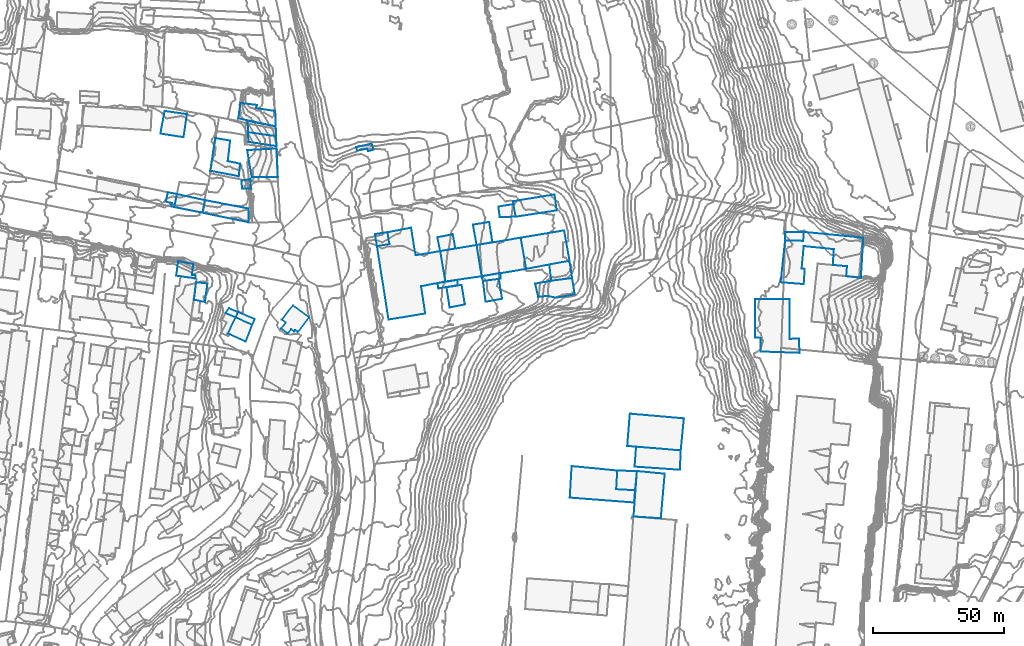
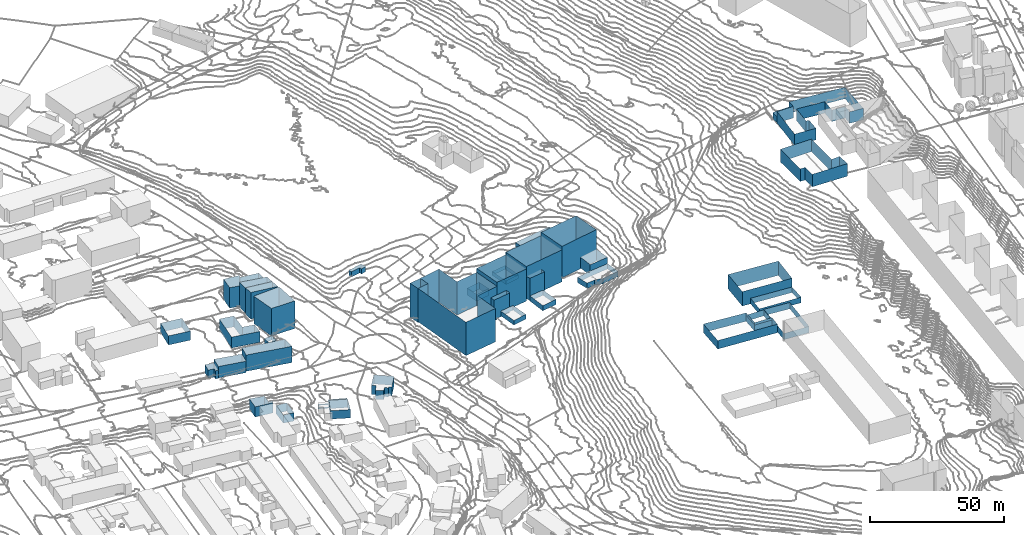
# Not in any storey, part 64 of 419: 40 walls.
"""IFC2X3 model written with IfcOpenShell, lengths in metres."""

from ifc_helpers import new_model, si_unit, frame, origin_with_axes, place, context, subcontext, project, faceted_brep, element, save


model = new_model("IFC2X3")

# Units and contexts
model_context = context("Model", 3, precision=1e-05, world=origin_with_axes())
body_context = subcontext(model_context, "Body", "Model", "MODEL_VIEW")
ifc_project = project(units=[si_unit("AREAUNIT", "SQUARE_METRE"), si_unit("LENGTHUNIT", "METRE")], contexts=[model_context])

# Walls
wall_1_placement = place(None, frame((811.9920204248, 823.2976909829, 85.8652003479), z_axis=(0.0, 0.0, 1.0), x_axis=(1.0, 0.0, 0.0)))
element("IfcWall", 1, at=wall_1_placement, Name="Mur 0", context=body_context, shape_type="Brep", body=[
    faceted_brep([(8.7999999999, -0.7000000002, 5.2347996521), (0.0, 0.0, 5.2347996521), (8.7999999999, -0.7000000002, 0.0), (0.0, 0.0, 0.0), (9.2, 5.0999999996, 5.2347996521), (9.2, 5.0999999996, 0.0), (8.0, 5.2999999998, 5.2347996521), (8.0, 5.2999999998, 0.0), (8.7999999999, 13.7999999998, 5.2347996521), (8.7999999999, 13.7999999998, 0.0), (20.2999999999, 12.5999999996, 5.2347996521), (20.2999999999, 12.5999999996, 0.0), (19.9, 6.5999999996, 5.2347996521), (19.9, 6.5999999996, 0.0), (25.2999999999, 6.0999999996, 5.2347996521), (25.2999999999, 6.0999999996, 0.0), (25.0, 2.2999999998, 5.2347996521), (25.0, 2.2999999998, 0.0), (30.6, 1.6999999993, 5.2347996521), (30.6, 1.6999999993, 0.0), (31.5, 17.0, 5.2347996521), (31.5, 17.0, 0.0), (8.7999999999, 19.1999999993, 5.2347996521), (8.7999999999, 19.1999999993, 0.0), (8.6, 15.7999999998, 5.2347996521), (8.6, 15.7999999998, 0.0), (1.7, 15.8999999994, 5.2347996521), (1.7, 15.8999999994, 0.0)], [[[0, 1, 2]], [[2, 1, 3]], [[4, 0, 5]], [[5, 0, 2]], [[6, 4, 7]], [[7, 4, 5]], [[8, 6, 9]], [[9, 6, 7]], [[10, 8, 11]], [[11, 8, 9]], [[12, 10, 13]], [[13, 10, 11]], [[14, 12, 15]], [[15, 12, 13]], [[16, 14, 17]], [[17, 14, 15]], [[18, 16, 19]], [[19, 16, 17]], [[20, 18, 21]], [[21, 18, 19]], [[22, 20, 23]], [[23, 20, 21]], [[24, 22, 25]], [[25, 22, 23]], [[1, 26, 3]], [[3, 26, 27]], [[26, 24, 27]], [[27, 24, 25]]]),
])
wall_2_placement = place(None, frame((606.4920204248, 862.0976909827, 44.4979988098), z_axis=(0.0, 0.0, 1.0), x_axis=(1.0, 0.0, 0.0)))
element("IfcWall", 2, at=wall_2_placement, Name="Mur 0", context=body_context, shape_type="Brep", body=[
    faceted_brep([(0.0, 0.0, 2.0020011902), (3.2999999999, 0.5, 2.0020011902), (0.0, 0.0, 0.0), (3.2999999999, 0.5, 0.0), (0.1, -3.1000000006, 2.0020011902), (0.1, -3.1000000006, 0.0), (3.5, -3.0, 2.0020011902), (3.5, -3.0, 0.0)], [[[0, 1, 2]], [[2, 1, 3]], [[4, 0, 5]], [[5, 0, 2]], [[1, 6, 3]], [[3, 6, 7]], [[6, 4, 7]], [[7, 4, 5]]]),
])
wall_3_placement = place(None, frame((605.1920204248, 885.7976909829, 46.5244003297), z_axis=(0.0, 0.0, 1.0), x_axis=(1.0, 0.0, 0.0)))
element("IfcWall", 3, at=wall_3_placement, Name="Mur 0", context=body_context, shape_type="Brep", body=[
    faceted_brep([(6.7000000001, 3.8999999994, 9.2755996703), (14.1, 2.7999999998, 9.2755996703), (6.7000000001, 3.8999999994, 0.0), (14.1, 2.7999999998, 0.0), (7.1, 5.0999999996, 9.2755996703), (7.1, 5.0999999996, 0.0), (0.8, 5.8999999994, 9.2755996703), (0.8, 5.8999999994, 0.0), (0.0, 0.0, 9.2755996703), (0.0, 0.0, 0.0), (14.3, -3.1000000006, 9.2755996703), (14.3, -3.1000000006, 0.0)], [[[0, 1, 2]], [[2, 1, 3]], [[4, 0, 5]], [[5, 0, 2]], [[6, 4, 7]], [[7, 4, 5]], [[8, 6, 9]], [[9, 6, 7]], [[1, 10, 3]], [[3, 10, 11]], [[10, 8, 11]], [[11, 8, 9]]]),
])
wall_4_placement = place(None, frame((753.4920204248, 760.8976909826, 71.2763980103), z_axis=(0.0, 0.0, 1.0), x_axis=(1.0, 0.0, 0.0)))
element("IfcWall", 4, at=wall_4_placement, Name="Mur 0", context=body_context, shape_type="Brep", body=[
    faceted_brep([(20.4, -1.7000000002, 6.5236019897), (3.4, -0.2999999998, 6.5236019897), (20.4, -1.7000000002, 0.0), (3.4, -0.2999999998, 0.0), (21.6, 10.5, 6.5236019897), (21.6, 10.5, 0.0), (1.0, 12.2999999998, 6.5236019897), (1.0, 12.2999999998, 0.0), (0.0, 0.0, 6.5236019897), (0.0, 0.0, 0.0)], [[[0, 1, 2]], [[2, 1, 3]], [[4, 0, 5]], [[5, 0, 2]], [[6, 4, 7]], [[7, 4, 5]], [[1, 8, 3]], [[3, 8, 9]], [[8, 6, 9]], [[9, 6, 7]]]),
])
wall_5_placement = place(None, frame((594.4920204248, 865.7976909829, 44.244799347), z_axis=(0.0, 0.0, 1.0), x_axis=(1.0, 0.0, 0.0)))
element("IfcWall", 5, at=wall_5_placement, Name="Mur 0", context=body_context, shape_type="Brep", body=[
    faceted_brep([(0.0, 0.0, 4.955200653), (1.9, 12.5, 4.955200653), (0.0, 0.0, 0.0), (1.9, 12.5, 0.0), (10.9, -2.1000000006, 4.955200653), (10.9, -2.1000000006, 0.0), (11.4, 2.6999999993, 4.955200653), (11.4, 2.6999999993, 0.0), (6.7, 3.6999999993, 4.955200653), (6.7, 3.6999999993, 0.0), (7.6, 11.5, 4.955200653), (7.6, 11.5, 0.0)], [[[0, 1, 2]], [[2, 1, 3]], [[4, 0, 5]], [[5, 0, 2]], [[6, 4, 7]], [[7, 4, 5]], [[8, 6, 9]], [[9, 6, 7]], [[1, 10, 3]], [[3, 10, 11]], [[10, 8, 11]], [[11, 8, 9]]]),
])
wall_6_placement = place(None, frame((588.2920204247, 816.5976909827, 42.0689992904), z_axis=(0.0, 0.0, 1.0), x_axis=(1.0, 0.0, 0.0)))
element("IfcWall", 6, at=wall_6_placement, Name="Mur 0", context=body_context, shape_type="Brep", body=[
    faceted_brep([(0.0, 0.0, 3.7310007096), (0.8, 6.7000000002, 3.7310007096), (0.0, 0.0, 0.0), (0.8, 6.7000000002, 0.0), (4.2000000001, -0.7999999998, 3.7310007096), (4.2000000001, -0.7999999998, 0.0), (5.1000000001, 6.2000000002, 3.7310007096), (5.1000000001, 6.2000000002, 0.0)], [[[0, 1, 2]], [[2, 1, 3]], [[4, 0, 5]], [[5, 0, 2]], [[1, 6, 3]], [[3, 6, 7]], [[6, 4, 7]], [[7, 4, 5]]]),
])
wall_7_placement = place(None, frame((604.0920204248, 809.8976909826, 47.4525003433), z_axis=(0.0, 0.0, 1.0), x_axis=(1.0, 0.0, 0.0)))
element("IfcWall", 7, at=wall_7_placement, Name="Mur 0", context=body_context, shape_type="Brep", body=[
    faceted_brep([(7.3, -0.5999999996, 2.3474996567), (6.4, -2.7999999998, 2.3474996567), (7.3, -0.5999999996, 0.0), (6.4, -2.7999999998, 0.0), (1.0, 2.0, 2.3474996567), (1.0, 2.0, 0.0), (0.0, 0.0, 2.3474996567), (0.0, 0.0, 0.0)], [[[0, 1, 2]], [[2, 1, 3]], [[4, 0, 5]], [[5, 0, 2]], [[1, 6, 3]], [[3, 6, 7]], [[6, 4, 7]], [[7, 4, 5]]]),
])
wall_8_placement = place(None, frame((684.5920204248, 821.3976909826, 54.2764006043), z_axis=(0.0, 0.0, 1.0), x_axis=(1.0, 0.0, 0.0)))
element("IfcWall", 8, at=wall_8_placement, Name="Mur 0", context=body_context, shape_type="Brep", body=[
    faceted_brep([(1.2, -7.7000000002, 2.1235993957), (0.0, 0.0, 2.1235993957), (1.2, -7.7000000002, 0.0), (0.0, 0.0, 0.0), (7.0, -6.5, 2.1235993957), (7.0, -6.5, 0.0), (5.8, 0.9000000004, 2.1235993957), (5.8, 0.9000000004, 0.0)], [[[0, 1, 2]], [[2, 1, 3]], [[4, 0, 5]], [[5, 0, 2]], [[1, 6, 3]], [[3, 6, 7]], [[6, 4, 7]], [[7, 4, 5]]]),
])
wall_9_placement = place(None, frame((682.1920204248, 835.1976909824, 53.6968000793), z_axis=(0.0, 0.0, 1.0), x_axis=(1.0, 0.0, 0.0)))
element("IfcWall", 9, at=wall_9_placement, Name="Mur 0", context=body_context, shape_type="Brep", body=[
    faceted_brep([(15.8, -9.5999999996, 14.6031999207), (2.0, -11.5999999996, 14.6031999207), (15.8, -9.5999999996, 0.0), (2.0, -11.5999999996, 0.0), (13.9, 2.2999999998, 14.6031999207), (13.9, 2.2999999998, 0.0), (0.0, 0.0, 14.6031999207), (0.0, 0.0, 0.0)], [[[0, 1, 2]], [[2, 1, 3]], [[4, 0, 5]], [[5, 0, 2]], [[1, 6, 3]], [[3, 6, 7]], [[6, 4, 7]], [[7, 4, 5]]]),
])
wall_10_placement = place(None, frame((681.1920204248, 822.9976909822, 53.7519998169), z_axis=(0.0, 0.0, 1.0), x_axis=(1.0, 0.0, 0.0)))
element("IfcWall", 10, at=wall_10_placement, Name="Mur 0", context=body_context, shape_type="Brep", body=[
    faceted_brep([(0.3, -2.0, 8.9480001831), (0.0, 0.0, 8.9480001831), (0.3, -2.0, 0.0), (0.0, 0.0, 0.0), (7.7000000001, -0.7999999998, 8.9480001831), (7.7000000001, -0.7999999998, 0.0), (7.5, 1.2000000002, 8.9480001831), (7.5, 1.2000000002, 0.0)], [[[0, 1, 2]], [[2, 1, 3]], [[4, 0, 5]], [[5, 0, 2]], [[1, 6, 3]], [[3, 6, 7]], [[6, 4, 7]], [[7, 4, 5]]]),
])
wall_11_placement = place(None, frame((577.5920204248, 853.9976909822, 43.6050014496), z_axis=(0.0, 0.0, 1.0), x_axis=(1.0, 0.0, 0.0)))
element("IfcWall", 11, at=wall_11_placement, Name="Mur 0", context=body_context, shape_type="Brep", body=[
    faceted_brep([(0.7, 3.6000000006, 3.6949985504), (4.2, 2.9000000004, 3.6949985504), (0.7, 3.6000000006, 0.0), (4.2, 2.9000000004, 0.0), (0.0, 0.0, 3.6949985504), (0.0, 0.0, 0.0), (2.3, -0.5, 3.6949985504), (2.3, -0.5, 0.0), (2.1, -1.7999999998, 3.6949985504), (2.1, -1.7999999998, 0.0), (3.2, -2.0, 3.6949985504), (3.2, -2.0, 0.0)], [[[0, 1, 2]], [[2, 1, 3]], [[4, 0, 5]], [[5, 0, 2]], [[6, 4, 7]], [[7, 4, 5]], [[8, 6, 9]], [[9, 6, 7]], [[1, 10, 3]], [[3, 10, 11]], [[10, 8, 11]], [[11, 8, 9]]]),
])
wall_12_placement = place(None, frame((755.8920204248, 733.9976909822, 71.4249992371), z_axis=(0.0, 0.0, 1.0), x_axis=(1.0, 0.0, 0.0)))
element("IfcWall", 12, at=wall_12_placement, Name="Mur 0", context=body_context, shape_type="Brep", body=[
    faceted_brep([(11.8999999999, 16.3000000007, 2.8750007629), (10.3999999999, -0.6999999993, 2.8750007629), (11.8999999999, 16.3000000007, 0.0), (10.3999999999, -0.6999999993, 0.0), (1.2999999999, 17.3000000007, 2.8750007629), (1.2999999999, 17.3000000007, 0.0), (0.0, 0.0, 2.8750007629), (0.0, 0.0, 0.0)], [[[0, 1, 2]], [[2, 1, 3]], [[4, 0, 5]], [[5, 0, 2]], [[1, 6, 3]], [[3, 6, 7]], [[6, 4, 7]], [[7, 4, 5]]]),
])
wall_13_placement = place(None, frame((696.0920204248, 837.4976909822, 54.8805000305), z_axis=(0.0, 0.0, 1.0), x_axis=(1.0, 0.0, 0.0)))
element("IfcWall", 13, at=wall_13_placement, Name="Mur 0", context=body_context, shape_type="Brep", body=[
    faceted_brep([(1.9, -11.8999999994, 14.5194999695), (0.0, 0.0, 14.5194999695), (1.9, -11.8999999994, 0.0), (0.0, 0.0, 0.0), (18.9, -9.0999999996, 14.5194999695), (18.9, -9.0999999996, 0.0), (16.8, 2.8000000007, 14.5194999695), (16.8, 2.8000000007, 0.0)], [[[0, 1, 2]], [[2, 1, 3]], [[4, 0, 5]], [[5, 0, 2]], [[1, 6, 3]], [[3, 6, 7]], [[6, 4, 7]], [[7, 4, 5]]]),
])
wall_14_placement = place(None, frame((600.2920204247, 811.4976909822, 47.4525003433), z_axis=(0.0, 0.0, 1.0), x_axis=(1.0, 0.0, 0.0)))
element("IfcWall", 14, at=wall_14_placement, Name="Mur 0", context=body_context, shape_type="Brep", body=[
    faceted_brep([(1.3, 1.9000000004, 0.5474996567), (4.8, 0.4000000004, 0.5474996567), (1.3, 1.9000000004, 0.0), (4.8, 0.4000000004, 0.0), (0.0, 0.0, 0.5474996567), (0.0, 0.0, 0.0), (3.8, -1.5999999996, 0.5474996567), (3.8, -1.5999999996, 0.0)], [[[0, 1, 2]], [[2, 1, 3]], [[4, 0, 5]], [[5, 0, 2]], [[1, 6, 3]], [[3, 6, 7]], [[6, 4, 7]], [[7, 4, 5]]]),
])
wall_15_placement = place(None, frame((581.4920204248, 825.7976909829, 41.6546007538), z_axis=(0.0, 0.0, 1.0), x_axis=(1.0, 0.0, 0.0)))
element("IfcWall", 15, at=wall_15_placement, Name="Mur 0", context=body_context, shape_type="Brep", body=[
    faceted_brep([(0.7999999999, 5.5999999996, 4.6453992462), (6.5, 4.3999999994, 4.6453992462), (0.7999999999, 5.5999999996, 0.0), (6.5, 4.3999999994, 0.0), (0.0, 0.0, 4.6453992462), (0.0, 0.0, 0.0), (7.2, -1.0, 4.6453992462), (7.2, -1.0, 0.0), (7.5, 0.0999999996, 4.6453992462), (7.5, 0.0999999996, 0.0), (6.0, 0.2999999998, 4.6453992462), (6.0, 0.2999999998, 0.0)], [[[0, 1, 2]], [[2, 1, 3]], [[4, 0, 5]], [[5, 0, 2]], [[6, 4, 7]], [[7, 4, 5]], [[8, 6, 9]], [[9, 6, 7]], [[1, 10, 3]], [[3, 10, 11]], [[10, 8, 11]], [[11, 8, 9]]]),
])
wall_16_placement = place(None, frame((756.2920204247, 752.9976909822, 71.2763980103), z_axis=(0.0, 0.0, 1.0), x_axis=(1.0, 0.0, 0.0)))
element("IfcWall", 16, at=wall_16_placement, Name="Mur 0", context=body_context, shape_type="Brep", body=[
    faceted_brep([(0.0, 0.0, 2.5236019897), (0.6000000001, 7.6000000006, 2.5236019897), (0.0, 0.0, 0.0), (0.6000000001, 7.6000000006, 0.0), (17.3, -1.1999999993, 2.5236019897), (17.3, -1.1999999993, 0.0), (17.6000000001, 6.2000000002, 2.5236019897), (17.6000000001, 6.2000000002, 0.0)], [[[0, 1, 2]], [[2, 1, 3]], [[4, 0, 5]], [[5, 0, 2]], [[1, 6, 3]], [[3, 6, 7]], [[6, 4, 7]], [[7, 4, 5]]]),
])
wall_17_placement = place(None, frame((650.1920204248, 874.7976909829, 52.295199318), z_axis=(0.0, 0.0, 1.0), x_axis=(1.0, 0.0, 0.0)))
element("IfcWall", 17, at=wall_17_placement, Name="Mur 0", context=body_context, shape_type="Brep", body=[
    faceted_brep([(4.2000000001, -0.5, 2.304800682), (0.3, -1.3000000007, 2.304800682), (4.2000000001, -0.5, 0.0), (0.3, -1.3000000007, 0.0), (4.5, -1.5, 2.304800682), (4.5, -1.5, 0.0), (6.6, -0.9000000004, 2.304800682), (6.6, -0.9000000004, 0.0), (5.9, 1.3999999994, 2.304800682), (5.9, 1.3999999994, 0.0), (0.0, 0.0, 2.304800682), (0.0, 0.0, 0.0)], [[[0, 1, 2]], [[2, 1, 3]], [[4, 0, 5]], [[5, 0, 2]], [[6, 4, 7]], [[7, 4, 5]], [[8, 6, 9]], [[9, 6, 7]], [[1, 10, 3]], [[3, 10, 11]], [[10, 8, 11]], [[11, 8, 9]]]),
])
wall_18_placement = place(None, frame((658.0920204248, 837.0976909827, 51.3250007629), z_axis=(0.0, 0.0, 1.0), x_axis=(1.0, 0.0, 0.0)))
element("IfcWall", 18, at=wall_18_placement, Name="Mur 0", context=body_context, shape_type="Brep", body=[
    faceted_brep([(4.4, -28.0, 15.1749992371), (0.0, 0.0, 15.1749992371), (4.4, -28.0, 0.0), (0.0, 0.0, 0.0), (18.4, -25.7000000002, 15.1749992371), (18.4, -25.7000000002, 0.0), (16.8, -15.2999999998, 15.1749992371), (16.8, -15.2999999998, 0.0), (26.1, -13.5, 15.1749992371), (26.1, -13.5, 0.0), (24.1, -1.9000000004, 15.1749992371), (24.1, -1.9000000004, 0.0), (14.7, -3.5, 15.1749992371), (14.7, -3.5, 0.0), (13.0, 7.0, 15.1749992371), (13.0, 7.0, 0.0), (4.0, 5.2999999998, 15.1749992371), (4.0, 5.2999999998, 0.0), (4.7, 0.7999999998, 15.1749992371), (4.7, 0.7999999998, 0.0)], [[[0, 1, 2]], [[2, 1, 3]], [[4, 0, 5]], [[5, 0, 2]], [[6, 4, 7]], [[7, 4, 5]], [[8, 6, 9]], [[9, 6, 7]], [[10, 8, 11]], [[11, 8, 9]], [[12, 10, 13]], [[13, 10, 11]], [[14, 12, 15]], [[15, 12, 13]], [[16, 14, 17]], [[17, 14, 15]], [[1, 18, 3]], [[3, 18, 19]], [[18, 16, 19]], [[19, 16, 17]]]),
])
wall_19_placement = place(None, frame((731.5920204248, 741.1976909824, 71.3399963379), z_axis=(0.0, 0.0, 1.0), x_axis=(1.0, 0.0, 0.0)))
element("IfcWall", 19, at=wall_19_placement, Name="Mur 0", context=body_context, shape_type="Brep", body=[
    faceted_brep([(24.9, 2.7999999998, 3.8600036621), (24.5, -1.8999999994, 3.8600036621), (24.9, 2.7999999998, 0.0), (24.5, -1.8999999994, 0.0), (17.7, 3.2000000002, 3.8600036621), (17.7, 3.2000000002, 0.0), (18.1, 10.2999999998, 3.8600036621), (18.1, 10.2999999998, 0.0), (0.7, 12.0, 3.8600036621), (0.7, 12.0, 0.0), (0.0, 0.0, 3.8600036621), (0.0, 0.0, 0.0)], [[[0, 1, 2]], [[2, 1, 3]], [[4, 0, 5]], [[5, 0, 2]], [[6, 4, 7]], [[7, 4, 5]], [[8, 6, 9]], [[9, 6, 7]], [[1, 10, 3]], [[3, 10, 11]], [[10, 8, 11]], [[11, 8, 9]]]),
])
wall_20_placement = place(None, frame((802.1920204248, 816.8976909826, 85.8012005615), z_axis=(0.0, 0.0, 1.0), x_axis=(1.0, 0.0, 0.0)))
element("IfcWall", 20, at=wall_20_placement, Name="Mur 0", context=body_context, shape_type="Brep", body=[
    faceted_brep([(0.1, -14.7000000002, 5.6987994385), (0.0, 0.0, 5.6987994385), (0.1, -14.7000000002, 0.0), (0.0, 0.0, 0.0), (2.1, -14.7999999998, 5.6987994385), (2.1, -14.7999999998, 0.0), (2.2000000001, -20.0, 5.6987994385), (2.2000000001, -20.0, 0.0), (17.0, -20.5, 5.6987994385), (17.0, -20.5, 0.0), (16.8, -15.0, 5.6987994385), (16.8, -15.0, 0.0), (13.2000000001, -15.2000000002, 5.6987994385), (13.2000000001, -15.2000000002, 0.0), (13.3, 0.0, 5.6987994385), (13.3, 0.0, 0.0)], [[[0, 1, 2]], [[2, 1, 3]], [[4, 0, 5]], [[5, 0, 2]], [[6, 4, 7]], [[7, 4, 5]], [[8, 6, 9]], [[9, 6, 7]], [[10, 8, 11]], [[11, 8, 9]], [[12, 10, 13]], [[13, 10, 11]], [[1, 14, 3]], [[3, 14, 15]], [[14, 12, 15]], [[15, 12, 13]]]),
])
wall_21_placement = place(None, frame((749.2920204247, 744.3976909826, 71.3581008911), z_axis=(0.0, 0.0, 1.0), x_axis=(1.0, 0.0, 0.0)))
element("IfcWall", 21, at=wall_21_placement, Name="Mur 0", context=body_context, shape_type="Brep", body=[
    faceted_brep([(0.4, 7.0999999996, 2.7418991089), (7.9, 6.9000000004, 2.7418991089), (0.4, 7.0999999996, 0.0), (7.9, 6.9000000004, 0.0), (0.0, 0.0, 2.7418991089), (0.0, 0.0, 0.0), (7.2000000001, -0.4000000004, 2.7418991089), (7.2000000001, -0.4000000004, 0.0)], [[[0, 1, 2]], [[2, 1, 3]], [[4, 0, 5]], [[5, 0, 2]], [[1, 6, 3]], [[3, 6, 7]], [[6, 4, 7]], [[7, 4, 5]]]),
])
wall_22_placement = place(None, frame((698.4920204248, 823.7976909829, 54.6379997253), z_axis=(0.0, 0.0, 1.0), x_axis=(1.0, 0.0, 0.0)))
element("IfcWall", 22, at=wall_22_placement, Name="Mur 0", context=body_context, shape_type="Brep", body=[
    faceted_brep([(1.0, -7.9000000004, 2.3620002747), (0.0, 0.0, 2.3620002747), (1.0, -7.9000000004, 0.0), (0.0, 0.0, 0.0), (7.2999999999, -6.8000000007, 2.3620002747), (7.2999999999, -6.8000000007, 0.0), (6.1, 0.7999999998, 2.3620002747), (6.1, 0.7999999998, 0.0)], [[[0, 1, 2]], [[2, 1, 3]], [[4, 0, 5]], [[5, 0, 2]], [[1, 6, 3]], [[3, 6, 7]], [[6, 4, 7]], [[7, 4, 5]]]),
])
wall_23_placement = place(None, frame((712.8920204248, 840.2976909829, 56.627100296), z_axis=(0.0, 0.0, 1.0), x_axis=(1.0, 0.0, 0.0)))
element("IfcWall", 23, at=wall_23_placement, Name="Mur 0", context=body_context, shape_type="Brep", body=[
    faceted_brep([(18.6, -8.8000000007, 14.272899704), (10.8999999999, -10.2000000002, 14.272899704), (18.6, -8.8000000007, 0.0), (10.8999999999, -10.2000000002, 0.0), (16.6, 2.7999999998, 14.272899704), (16.6, 2.7999999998, 0.0), (0.0, 0.0, 14.272899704), (0.0, 0.0, 0.0), (2.1, -11.9000000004, 14.272899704), (2.1, -11.9000000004, 0.0)], [[[0, 1, 2]], [[2, 1, 3]], [[4, 0, 5]], [[5, 0, 2]], [[6, 4, 7]], [[7, 4, 5]], [[1, 8, 3]], [[3, 8, 9]], [[8, 6, 9]], [[9, 6, 7]]]),
])
wall_24_placement = place(None, frame((723.7920204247, 830.0976909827, 57.0904008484), z_axis=(0.0, 0.0, 1.0), x_axis=(1.0, 0.0, 0.0)))
element("IfcWall", 24, at=wall_24_placement, Name="Mur 0", context=body_context, shape_type="Brep", body=[
    faceted_brep([(0.0, 0.0, 4.9095991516), (7.7000000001, 1.3999999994, 4.9095991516), (0.0, 0.0, 0.0), (7.7000000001, 1.3999999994, 0.0), (0.7000000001, -6.2000000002, 4.9095991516), (0.7000000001, -6.2000000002, 0.0), (8.7000000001, -5.2000000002, 4.9095991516), (8.7000000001, -5.2000000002, 0.0)], [[[0, 1, 2]], [[2, 1, 3]], [[4, 0, 5]], [[5, 0, 2]], [[1, 6, 3]], [[3, 6, 7]], [[6, 4, 7]], [[7, 4, 5]]]),
])
wall_25_placement = place(None, frame((704.3920204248, 852.1976909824, 55.3128010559), z_axis=(0.0, 0.0, 1.0), x_axis=(1.0, 0.0, 0.0)))
element("IfcWall", 25, at=wall_25_placement, Name="Mur 0", context=body_context, shape_type="Brep", body=[
    faceted_brep([(0.0, 0.0, 2.3871989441), (5.7, 0.9000000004, 2.3871989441), (0.0, 0.0, 0.0), (5.7, 0.9000000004, 0.0), (0.5, -4.0, 2.3871989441), (0.5, -4.0, 0.0), (6.6, -3.8999999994, 2.3871989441), (6.6, -3.8999999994, 0.0)], [[[0, 1, 2]], [[2, 1, 3]], [[4, 0, 5]], [[5, 0, 2]], [[1, 6, 3]], [[3, 6, 7]], [[6, 4, 7]], [[7, 4, 5]]]),
])
wall_26_placement = place(None, frame((813.6920204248, 839.1976909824, 85.8652003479), z_axis=(0.0, 0.0, 1.0), x_axis=(1.0, 0.0, 0.0)))
element("IfcWall", 26, at=wall_26_placement, Name="Mur 0", context=body_context, shape_type="Brep", body=[
    faceted_brep([(0.0, 0.0, 2.9347996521), (0.0, 3.2000000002, 2.9347996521), (0.0, 0.0, 0.0), (0.0, 3.2000000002, 0.0), (6.9, -0.0999999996, 2.9347996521), (6.9, -0.0999999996, 0.0), (7.1, 3.2999999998, 2.9347996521), (7.1, 3.2999999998, 0.0)], [[[0, 1, 2]], [[2, 1, 3]], [[4, 0, 5]], [[5, 0, 2]], [[1, 6, 3]], [[3, 6, 7]], [[6, 4, 7]], [[7, 4, 5]]]),
])
wall_27_placement = place(None, frame((681.0920204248, 840.4976909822, 53.3359985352), z_axis=(0.0, 0.0, 1.0), x_axis=(1.0, 0.0, 0.0)))
element("IfcWall", 27, at=wall_27_placement, Name="Mur 0", context=body_context, shape_type="Brep", body=[
    faceted_brep([(6.9, -4.2999999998, 3.1640014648), (1.1, -5.2999999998, 3.1640014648), (6.9, -4.2999999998, 0.0), (1.1, -5.2999999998, 0.0), (5.9, 1.1000000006, 3.1640014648), (5.9, 1.1000000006, 0.0), (0.0, 0.0, 3.1640014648), (0.0, 0.0, 0.0)], [[[0, 1, 2]], [[2, 1, 3]], [[4, 0, 5]], [[5, 0, 2]], [[1, 6, 3]], [[3, 6, 7]], [[6, 4, 7]], [[7, 4, 5]]]),
])
wall_28_placement = place(None, frame((694.6920204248, 845.2976909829, 54.630899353), z_axis=(0.0, 0.0, 1.0), x_axis=(1.0, 0.0, 0.0)))
element("IfcWall", 28, at=wall_28_placement, Name="Mur 0", context=body_context, shape_type="Brep", body=[
    faceted_brep([(7.4, -6.7000000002, 1.769100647), (1.4, -7.8000000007, 1.769100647), (7.4, -6.7000000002, 0.0), (1.4, -7.8000000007, 0.0), (6.2000000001, 1.0, 1.769100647), (6.2000000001, 1.0, 0.0), (0.0, 0.0, 1.769100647), (0.0, 0.0, 0.0)], [[[0, 1, 2]], [[2, 1, 3]], [[4, 0, 5]], [[5, 0, 2]], [[1, 6, 3]], [[3, 6, 7]], [[6, 4, 7]], [[7, 4, 5]]]),
])
wall_29_placement = place(None, frame((608.8920204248, 880.4976909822, 45.5800006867), z_axis=(0.0, 0.0, 1.0), x_axis=(1.0, 0.0, 0.0)))
element("IfcWall", 29, at=wall_29_placement, Name="Mur 0", context=body_context, shape_type="Brep", body=[
    faceted_brep([(0.0, 0.0, 12.1199993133), (10.7, -1.5, 12.1199993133), (0.0, 0.0, 0.0), (10.7, -1.5, 0.0), (0.2, -3.6999999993, 12.1199993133), (0.2, -3.6999999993, 0.0), (10.8999999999, -5.2999999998, 12.1199993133), (10.8999999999, -5.2999999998, 0.0)], [[[0, 1, 2]], [[2, 1, 3]], [[4, 0, 5]], [[5, 0, 2]], [[1, 6, 3]], [[3, 6, 7]], [[6, 4, 7]], [[7, 4, 5]]]),
])
wall_30_placement = place(None, frame((575.4920204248, 879.9976909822, 43.6664001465), z_axis=(0.0, 0.0, 1.0), x_axis=(1.0, 0.0, 0.0)))
element("IfcWall", 30, at=wall_30_placement, Name="Mur 0", context=body_context, shape_type="Brep", body=[
    faceted_brep([(0.0, 0.0, 4.1335998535), (1.6, 8.6000000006, 4.1335998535), (0.0, 0.0, 0.0), (1.6, 8.6000000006, 0.0), (8.7999999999, -1.3999999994, 4.1335998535), (8.7999999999, -1.3999999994, 0.0), (10.1, 7.4000000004, 4.1335998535), (10.1, 7.4000000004, 0.0)], [[[0, 1, 2]], [[2, 1, 3]], [[4, 0, 5]], [[5, 0, 2]], [[1, 6, 3]], [[3, 6, 7]], [[6, 4, 7]], [[7, 4, 5]]]),
])
wall_31_placement = place(None, frame((591.4920204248, 849.7976909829, 44.3993997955), z_axis=(0.0, 0.0, 1.0), x_axis=(1.0, 0.0, 0.0)))
element("IfcWall", 31, at=wall_31_placement, Name="Mur 0", context=body_context, shape_type="Brep", body=[
    faceted_brep([(17.6, 1.5999999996, 7.4006002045), (17.6, -3.6000000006, 7.4006002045), (17.6, 1.5999999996, 0.0), (17.6, -3.6000000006, 0.0), (1.0, 4.7999999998, 7.4006002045), (1.0, 4.7999999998, 0.0), (0.0, 0.0, 7.4006002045), (0.0, 0.0, 0.0)], [[[0, 1, 2]], [[2, 1, 3]], [[4, 0, 5]], [[5, 0, 2]], [[1, 6, 3]], [[3, 6, 7]], [[6, 4, 7]], [[7, 4, 5]]]),
])
wall_32_placement = place(None, frame((657.2920204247, 841.6976909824, 50.9186004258), z_axis=(0.0, 0.0, 1.0), x_axis=(1.0, 0.0, 0.0)))
element("IfcWall", 32, at=wall_32_placement, Name="Mur 0", context=body_context, shape_type="Brep", body=[
    faceted_brep([(5.5, -3.7999999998, 15.4813995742), (0.8, -4.5999999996, 15.4813995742), (5.5, -3.7999999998, 0.0), (0.8, -4.5999999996, 0.0), (4.8, 0.7000000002, 15.4813995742), (4.8, 0.7000000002, 0.0), (0.0, 0.0, 15.4813995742), (0.0, 0.0, 0.0)], [[[0, 1, 2]], [[2, 1, 3]], [[4, 0, 5]], [[5, 0, 2]], [[1, 6, 3]], [[3, 6, 7]], [[6, 4, 7]], [[7, 4, 5]]]),
])
wall_33_placement = place(None, frame((718.3920204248, 822.7976909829, 56.6787989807), z_axis=(0.0, 0.0, 1.0), x_axis=(1.0, 0.0, 0.0)))
element("IfcWall", 33, at=wall_33_placement, Name="Mur 0", context=body_context, shape_type="Brep", body=[
    faceted_brep([(0.0, 0.0, 2.4212010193), (6.1, 1.0999999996, 2.4212010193), (0.0, 0.0, 0.0), (6.1, 1.0999999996, 0.0), (1.2, -5.1000000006, 2.4212010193), (1.2, -5.1000000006, 0.0), (4.6, -4.7000000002, 2.4212010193), (4.6, -4.7000000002, 0.0), (7.8999999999, -5.4000000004, 2.4212010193), (7.8999999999, -5.4000000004, 0.0), (15.1, -4.1000000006, 2.4212010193), (15.1, -4.1000000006, 0.0), (14.1, 2.0999999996, 2.4212010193), (14.1, 2.0999999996, 0.0)], [[[0, 1, 2]], [[2, 1, 3]], [[4, 0, 5]], [[5, 0, 2]], [[6, 4, 7]], [[7, 4, 5]], [[8, 6, 9]], [[9, 6, 7]], [[10, 8, 11]], [[11, 8, 9]], [[1, 12, 3]], [[3, 12, 13]], [[12, 10, 13]], [[13, 10, 11]]]),
])
wall_34_placement = place(None, frame((621.4920204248, 805.5976909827, 47.9875999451), z_axis=(0.0, 0.0, 1.0), x_axis=(1.0, 0.0, 0.0)))
element("IfcWall", 34, at=wall_34_placement, Name="Mur 0", context=body_context, shape_type="Brep", body=[
    faceted_brep([(2.5, -1.7999999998, 4.1124000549), (0.0, 0.0, 4.1124000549), (2.5, -1.7999999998, 0.0), (0.0, 0.0, 0.0), (3.9, -0.2000000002, 4.1124000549), (3.9, -0.2000000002, 0.0), (5.0, -1.1000000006, 4.1124000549), (5.0, -1.1000000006, 0.0), (5.4, -0.5, 4.1124000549), (5.4, -0.5, 0.0), (6.4, -1.2000000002, 4.1124000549), (6.4, -1.2000000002, 0.0), (10.6, 4.2999999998, 4.1124000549), (10.6, 4.2999999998, 0.0), (4.5, 8.8999999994, 4.1124000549), (4.5, 8.8999999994, 0.0), (0.2999999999, 3.5, 4.1124000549), (0.2999999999, 3.5, 0.0), (1.7999999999, 2.3999999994, 4.1124000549), (1.7999999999, 2.3999999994, 0.0)], [[[0, 1, 2]], [[2, 1, 3]], [[4, 0, 5]], [[5, 0, 2]], [[6, 4, 7]], [[7, 4, 5]], [[8, 6, 9]], [[9, 6, 7]], [[10, 8, 11]], [[11, 8, 9]], [[12, 10, 13]], [[13, 10, 11]], [[14, 12, 15]], [[15, 12, 13]], [[16, 14, 17]], [[17, 14, 15]], [[1, 18, 3]], [[3, 18, 19]], [[18, 16, 19]], [[19, 16, 17]]]),
])
wall_35_placement = place(None, frame((580.7920204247, 851.9976909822, 43.8009998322), z_axis=(0.0, 0.0, 1.0), x_axis=(1.0, 0.0, 0.0)))
element("IfcWall", 35, at=wall_35_placement, Name="Mur 0", context=body_context, shape_type="Brep", body=[
    faceted_brep([(0.0, 0.0, 5.1990001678), (1.0, 4.9000000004, 5.1990001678), (0.0, 0.0, 0.0), (1.0, 4.9000000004, 0.0), (10.7000000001, -2.1999999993, 5.1990001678), (10.7000000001, -2.1999999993, 0.0), (11.7000000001, 2.6000000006, 5.1990001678), (11.7000000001, 2.6000000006, 0.0)], [[[0, 1, 2]], [[2, 1, 3]], [[4, 0, 5]], [[5, 0, 2]], [[1, 6, 3]], [[3, 6, 7]], [[6, 4, 7]], [[7, 4, 5]]]),
])
wall_36_placement = place(None, frame((601.1920204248, 803.7976909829, 47.1959999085), z_axis=(0.0, 0.0, 1.0), x_axis=(1.0, 0.0, 0.0)))
element("IfcWall", 36, at=wall_36_placement, Name="Mur 0", context=body_context, shape_type="Brep", body=[
    faceted_brep([(2.9, 6.0999999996, 3.8040000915), (9.3, 3.2999999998, 3.8040000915), (2.9, 6.0999999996, 0.0), (9.3, 3.2999999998, 0.0), (0.0, 0.0, 3.8040000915), (0.0, 0.0, 0.0), (6.8, -3.1000000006, 3.8040000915), (6.8, -3.1000000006, 0.0)], [[[0, 1, 2]], [[2, 1, 3]], [[4, 0, 5]], [[5, 0, 2]], [[1, 6, 3]], [[3, 6, 7]], [[6, 4, 7]], [[7, 4, 5]]]),
])
wall_37_placement = place(None, frame((608.7920204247, 884.7976909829, 46.2310001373), z_axis=(0.0, 0.0, 1.0), x_axis=(1.0, 0.0, 0.0)))
element("IfcWall", 37, at=wall_37_placement, Name="Mur 0", context=body_context, shape_type="Brep", body=[
    faceted_brep([(0.0, 0.0, 11.3689998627), (10.7000000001, -2.1000000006, 11.3689998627), (0.0, 0.0, 0.0), (10.7000000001, -2.1000000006, 0.0), (0.1000000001, -4.3000000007, 11.3689998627), (0.1000000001, -4.3000000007, 0.0), (10.8, -5.8000000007, 11.3689998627), (10.8, -5.8000000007, 0.0)], [[[0, 1, 2]], [[2, 1, 3]], [[4, 0, 5]], [[5, 0, 2]], [[1, 6, 3]], [[3, 6, 7]], [[6, 4, 7]], [[7, 4, 5]]]),
])
wall_38_placement = place(None, frame((697.9920204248, 825.5976909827, 54.8258005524), z_axis=(0.0, 0.0, 1.0), x_axis=(1.0, 0.0, 0.0)))
element("IfcWall", 38, at=wall_38_placement, Name="Mur 0", context=body_context, shape_type="Brep", body=[
    faceted_brep([(0.5, -1.7999999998, 10.1741994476), (0.0, 0.0, 10.1741994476), (0.5, -1.7999999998, 0.0), (0.0, 0.0, 0.0), (7.2999999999, -0.9000000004, 10.1741994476), (7.2999999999, -0.9000000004, 0.0), (7.1, 1.2999999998, 10.1741994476), (7.1, 1.2999999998, 0.0)], [[[0, 1, 2]], [[2, 1, 3]], [[4, 0, 5]], [[5, 0, 2]], [[1, 6, 3]], [[3, 6, 7]], [[6, 4, 7]], [[7, 4, 5]]]),
])
wall_39_placement = place(None, frame((608.5920204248, 873.6976909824, 45.5710010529), z_axis=(0.0, 0.0, 1.0), x_axis=(1.0, 0.0, 0.0)))
element("IfcWall", 39, at=wall_39_placement, Name="Mur 0", context=body_context, shape_type="Brep", body=[
    faceted_brep([(0.0, 0.0, 12.5289989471), (11.2, 0.6000000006, 12.5289989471), (0.0, 0.0, 0.0), (11.2, 0.6000000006, 0.0), (1.7, -10.2000000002, 12.5289989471), (1.7, -10.2000000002, 0.0), (11.7, -10.2999999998, 12.5289989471), (11.7, -10.2999999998, 0.0)], [[[0, 1, 2]], [[2, 1, 3]], [[4, 0, 5]], [[5, 0, 2]], [[1, 6, 3]], [[3, 6, 7]], [[6, 4, 7]], [[7, 4, 5]]]),
])
wall_40_placement = place(None, frame((709.8920204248, 854.1976909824, 55.8783997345), z_axis=(0.0, 0.0, 1.0), x_axis=(1.0, 0.0, 0.0)))
element("IfcWall", 40, at=wall_40_placement, Name="Mur 0", context=body_context, shape_type="Brep", body=[
    faceted_brep([(1.1, -5.8999999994, 3.0216002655), (0.2, -1.0999999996, 3.0216002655), (1.1, -5.8999999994, 0.0), (0.2, -1.0999999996, 0.0), (16.7, -3.5, 3.0216002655), (16.7, -3.5, 0.0), (15.8999999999, 2.6000000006, 3.0216002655), (15.8999999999, 2.6000000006, 0.0), (0.0, 0.0, 3.0216002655), (0.0, 0.0, 0.0)], [[[0, 1, 2]], [[2, 1, 3]], [[4, 0, 5]], [[5, 0, 2]], [[6, 4, 7]], [[7, 4, 5]], [[1, 8, 3]], [[3, 8, 9]], [[8, 6, 9]], [[9, 6, 7]]]),
])

save(model, "model.ifc")
